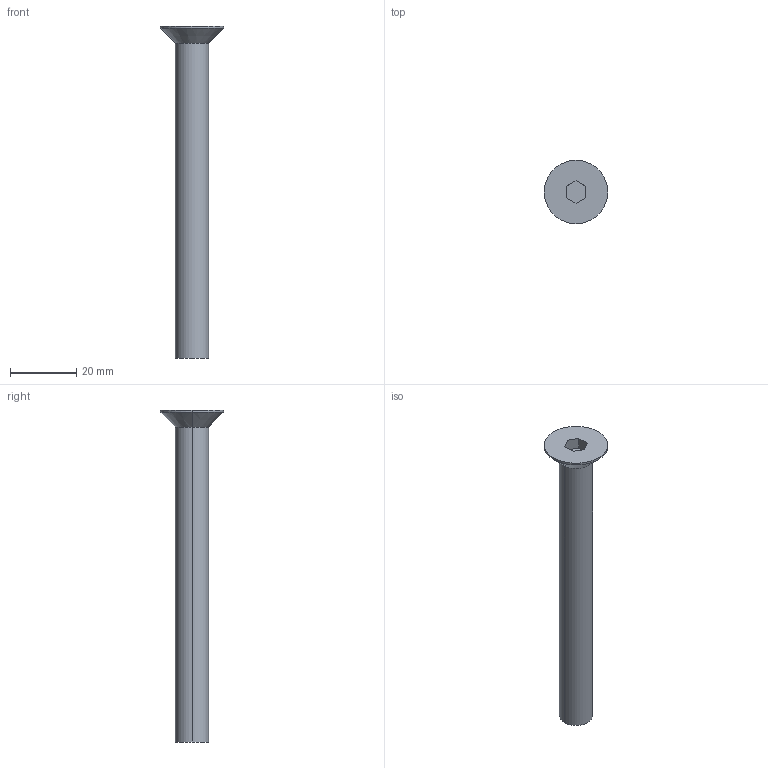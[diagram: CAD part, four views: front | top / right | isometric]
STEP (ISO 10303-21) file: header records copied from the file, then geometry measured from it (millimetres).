
FILE_DESCRIPTION (( 'STEP AP214' ), '1' );
FILE_NAME ('COUNTERSHUNK_HEAD_BOLT_M10(L=095).STEP', '2021-09-18T10:24:40', ( '' ), ( '' ), 'SwSTEP 2.0', 'SolidWorks 2018', '' );
FILE_SCHEMA (( 'AUTOMOTIVE_DESIGN' ));
Length unit declared in the file: millimetre
Products named in the file (1): COUNTERSHUNK_HEAD_BOLT_M10(L=095)
Bounding box: 19.22 x 19.22 x 100.22 mm (x, y, z)
Volume: 8324.5 mm3; surface area: 3764.1 mm2
Topology: 1 solids, 1 shells, 15 faces, 32 edges, 20 vertices
Faces by surface type: plane 9, cylinder 4, cone 2
Entity records: 436 total; most frequent: DIRECTION 72, CARTESIAN_POINT 68, ORIENTED_EDGE 64, EDGE_CURVE 32, LINE 24, VECTOR 24, AXIS2_PLACEMENT_3D 24, VERTEX_POINT 20
